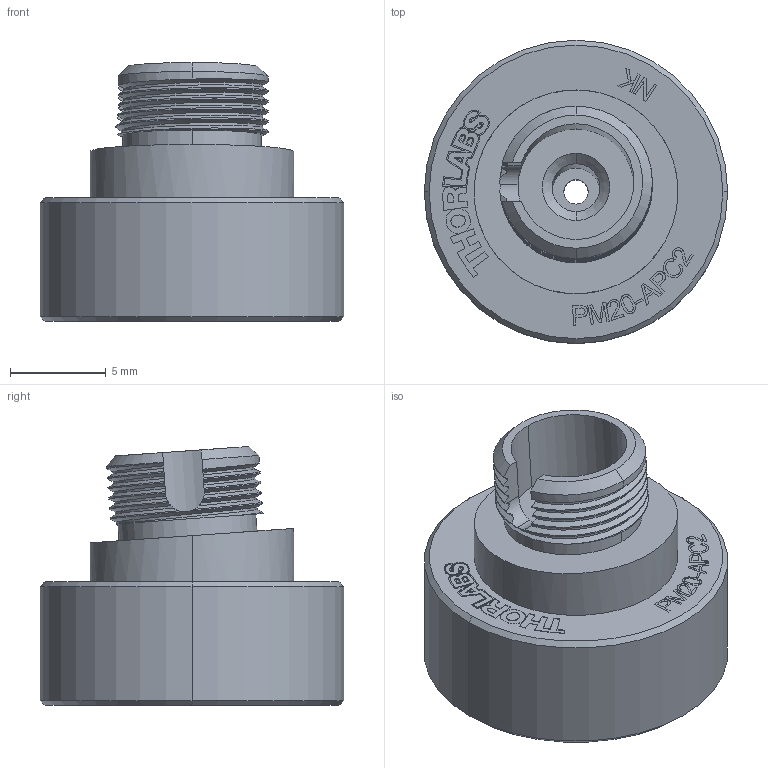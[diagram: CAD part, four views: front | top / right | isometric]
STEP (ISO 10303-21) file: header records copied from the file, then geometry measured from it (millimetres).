
FILE_DESCRIPTION (( 'STEP AP214' ), '1' );
FILE_NAME ('TTN215653-E0W.STEP', '2020-06-23T20:06:13', ( '' ), ( '' ), 'SwSTEP 2.0', 'SolidWorks 2018', '' );
FILE_SCHEMA (( 'AUTOMOTIVE_DESIGN' ));
Length unit declared in the file: inch
Products named in the file (1): TTN215653-E0W
Bounding box: 15.88 x 15.88 x 13.55 mm (x, y, z)
Volume: 950.2 mm3; surface area: 1353.8 mm2
Topology: 1 solids, 1 shells, 389 faces, 1044 edges, 693 vertices
Faces by surface type: bspline 181, plane 148, cylinder 47, cone 13
Entity records: 24825 total; most frequent: CARTESIAN_POINT 11458, ORIENTED_EDGE 2088, DIRECTION 1058, EDGE_CURVE 1044, VERTEX_POINT 693, LINE 546, VECTOR 546, EDGE_LOOP 427
